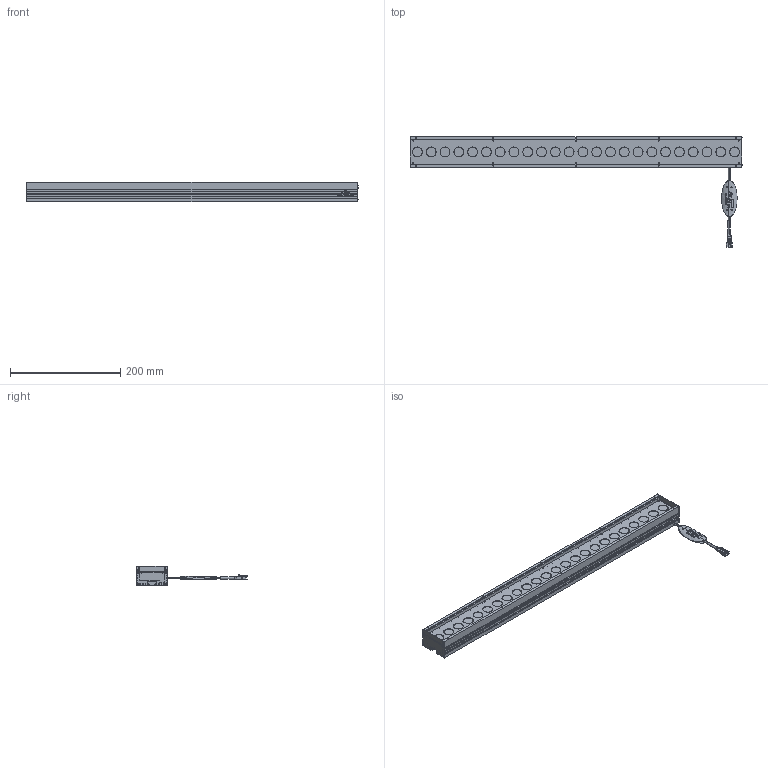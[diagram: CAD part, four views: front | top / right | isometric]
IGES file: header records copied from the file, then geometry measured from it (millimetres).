
Start section: 3D InterOp IGES (v. 2019 1.0.2), Spatial Corp. Copyright (c) 1999-2017.
Global section: file name: VBAL-60030_DRAWING_3D.iges; native system: Spatial Corp.; preprocessor: 3D InterOp ACIS/IGES; author: Noname; organization: Noname; date: 20231003.172209; units: millimetre
Bounding box: 602 x 200.2 x 36 mm (x, y, z)
Surface area: 298236.9 mm2 (no closed solid volume)
Topology: 0 solids, 0 shells, 1558 faces, 8238 edges, 8090 vertices
Faces by surface type: extrusion 750, revolution 730, bspline 78
